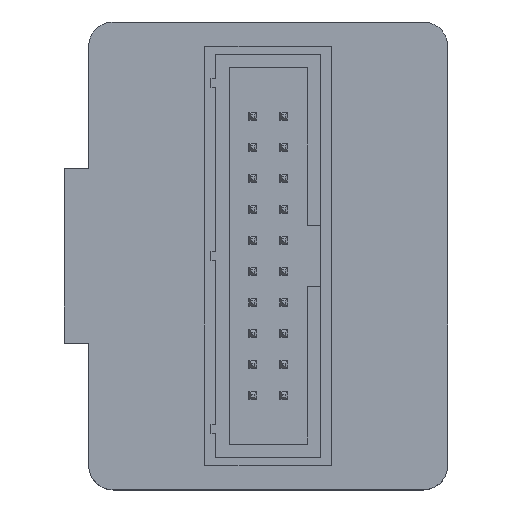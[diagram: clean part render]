
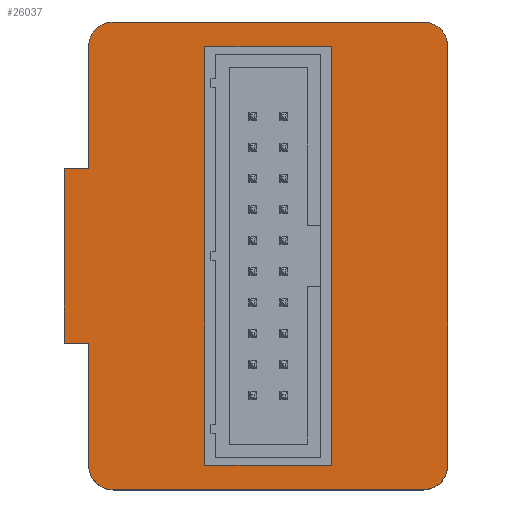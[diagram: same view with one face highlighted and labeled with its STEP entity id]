
A CAD part, top view. The second image highlights one B-rep face of the part: STEP entity #26037.
In plain terms, the highlighted planar face has unit normal (0, 0, 1).
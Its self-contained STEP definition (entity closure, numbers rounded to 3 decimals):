
#364 = VERTEX_POINT ( 'NONE', #14021 ) ;
#584 = ORIENTED_EDGE ( 'NONE', *, *, #41624, .T. ) ;
#588 = DIRECTION ( 'NONE',  ( 0., 0., 1. ) ) ;
#674 = ORIENTED_EDGE ( 'NONE', *, *, #7764, .T. ) ;
#863 = VECTOR ( 'NONE', #34122, 1000. ) ;
#1594 = DIRECTION ( 'NONE',  ( 0., 0., 1. ) ) ;
#1659 = LINE ( 'NONE', #35892, #5352 ) ;
#3092 = VERTEX_POINT ( 'NONE', #43201 ) ;
#3117 = ORIENTED_EDGE ( 'NONE', *, *, #25966, .F. ) ;
#4250 = CIRCLE ( 'NONE', #28932, 2. ) ;
#4842 = CARTESIAN_POINT ( 'NONE',  ( -1.176, -0.416, 28.134 ) ) ;
#5352 = VECTOR ( 'NONE', #15113, 1000. ) ;
#5368 = ORIENTED_EDGE ( 'NONE', *, *, #40307, .T. ) ;
#6502 = CARTESIAN_POINT ( 'NONE',  ( 0.341, 15.719, 28.134 ) ) ;
#6609 = CARTESIAN_POINT ( 'NONE',  ( 4.341, 5.719, 28.134 ) ) ;
#7243 = EDGE_LOOP ( 'NONE', ( #37437, #18319, #40186, #5368, #36495, #9422, #36245, #40594, #43068, #674, #7637, #584 ) ) ;
#7637 = ORIENTED_EDGE ( 'NONE', *, *, #18889, .T. ) ;
#7648 = VERTEX_POINT ( 'NONE', #28950 ) ;
#7764 = EDGE_CURVE ( 'NONE', #14088, #8732, #24080, .T. ) ;
#8094 = EDGE_CURVE ( 'NONE', #7648, #21552, #24662, .T. ) ;
#8126 = VECTOR ( 'NONE', #16445, 1000. ) ;
#8145 = PLANE ( 'NONE',  #36877 ) ;
#8411 = VERTEX_POINT ( 'NONE', #12141 ) ;
#8732 = VERTEX_POINT ( 'NONE', #21608 ) ;
#8904 = DIRECTION ( 'NONE',  ( 1., 0., 0. ) ) ;
#9176 = DIRECTION ( 'NONE',  ( 0., -1., 0. ) ) ;
#9348 = CARTESIAN_POINT ( 'NONE',  ( 29.729, 39.999, 28.134 ) ) ;
#9387 = DIRECTION ( 'NONE',  ( 1., 0., 0. ) ) ;
#9411 = CARTESIAN_POINT ( 'NONE',  ( 11.841, 39.999, 28.134 ) ) ;
#9422 = ORIENTED_EDGE ( 'NONE', *, *, #35385, .T. ) ;
#9570 = CARTESIAN_POINT ( 'NONE',  ( 31.729, 39.999, 28.134 ) ) ;
#10109 = CARTESIAN_POINT ( 'NONE',  ( 2.341, 15.719, 28.134 ) ) ;
#10237 = VERTEX_POINT ( 'NONE', #38463 ) ;
#10323 = DIRECTION ( 'NONE',  ( 1., 0., 0. ) ) ;
#10755 = VERTEX_POINT ( 'NONE', #9411 ) ;
#10804 = CARTESIAN_POINT ( 'NONE',  ( 11.841, 5.719, 28.134 ) ) ;
#10903 = CARTESIAN_POINT ( 'NONE',  ( 29.729, 5.719, 28.134 ) ) ;
#11004 = VECTOR ( 'NONE', #9176, 1000. ) ;
#11359 = LINE ( 'NONE', #27969, #28202 ) ;
#11855 = EDGE_CURVE ( 'NONE', #10237, #29970, #26409, .T. ) ;
#12141 = CARTESIAN_POINT ( 'NONE',  ( 2.341, 39.999, 28.134 ) ) ;
#12226 = VECTOR ( 'NONE', #30952, 1000. ) ;
#12564 = DIRECTION ( 'NONE',  ( 0., -1., 0. ) ) ;
#12589 = VECTOR ( 'NONE', #32674, 1000. ) ;
#12734 = LINE ( 'NONE', #39457, #11004 ) ;
#12736 = CARTESIAN_POINT ( 'NONE',  ( 0.341, 29.999, 28.134 ) ) ;
#12867 = EDGE_LOOP ( 'NONE', ( #3117, #31876, #14691, #40045 ) ) ;
#13280 = DIRECTION ( 'NONE',  ( 1., 0., 0. ) ) ;
#13307 = EDGE_CURVE ( 'NONE', #29970, #10755, #1659, .T. ) ;
#14021 = CARTESIAN_POINT ( 'NONE',  ( 29.729, 41.999, 28.134 ) ) ;
#14088 = VERTEX_POINT ( 'NONE', #6502 ) ;
#14528 = CARTESIAN_POINT ( 'NONE',  ( 2.341, 41.999, 28.134 ) ) ;
#14691 = ORIENTED_EDGE ( 'NONE', *, *, #13307, .F. ) ;
#15113 = DIRECTION ( 'NONE',  ( -1., 0., 0. ) ) ;
#15161 = EDGE_CURVE ( 'NONE', #364, #35507, #17945, .T. ) ;
#15275 = VECTOR ( 'NONE', #41484, 1000. ) ;
#16445 = DIRECTION ( 'NONE',  ( 0., 1., 0. ) ) ;
#17552 = DIRECTION ( 'NONE',  ( 0., -1., 0. ) ) ;
#17756 = DIRECTION ( 'NONE',  ( 1., 0., 0. ) ) ;
#17945 = LINE ( 'NONE', #20621, #37751 ) ;
#18260 = CIRCLE ( 'NONE', #43747, 2. ) ;
#18319 = ORIENTED_EDGE ( 'NONE', *, *, #42496, .T. ) ;
#18889 = EDGE_CURVE ( 'NONE', #8732, #33898, #26266, .T. ) ;
#19831 = EDGE_CURVE ( 'NONE', #25220, #14088, #11359, .T. ) ;
#20621 = CARTESIAN_POINT ( 'NONE',  ( 2.341, 41.999, 28.134 ) ) ;
#21002 = CARTESIAN_POINT ( 'NONE',  ( 2.341, 5.719, 28.134 ) ) ;
#21075 = VERTEX_POINT ( 'NONE', #10804 ) ;
#21119 = DIRECTION ( 'NONE',  ( 0., 0., 1. ) ) ;
#21552 = VERTEX_POINT ( 'NONE', #9570 ) ;
#21608 = CARTESIAN_POINT ( 'NONE',  ( 2.341, 15.719, 28.134 ) ) ;
#21856 = DIRECTION ( 'NONE',  ( 0., 0., 1. ) ) ;
#22809 = EDGE_CURVE ( 'NONE', #3092, #25220, #32452, .T. ) ;
#23061 = VECTOR ( 'NONE', #34649, 1000. ) ;
#23439 = CIRCLE ( 'NONE', #33316, 2. ) ;
#23771 = CARTESIAN_POINT ( 'NONE',  ( 22.229, 39.999, 28.134 ) ) ;
#23857 = CARTESIAN_POINT ( 'NONE',  ( 29.729, 3.719, 28.134 ) ) ;
#23951 = CARTESIAN_POINT ( 'NONE',  ( 2.341, 3.719, 28.134 ) ) ;
#24080 = LINE ( 'NONE', #10109, #35269 ) ;
#24117 = LINE ( 'NONE', #40694, #12226 ) ;
#24662 = LINE ( 'NONE', #31075, #15275 ) ;
#25220 = VERTEX_POINT ( 'NONE', #12736 ) ;
#25390 = FACE_OUTER_BOUND ( 'NONE', #7243, .T. ) ;
#25718 = DIRECTION ( 'NONE',  ( 0., 0., 1. ) ) ;
#25952 = CARTESIAN_POINT ( 'NONE',  ( 4.341, 3.719, 28.134 ) ) ;
#25966 = EDGE_CURVE ( 'NONE', #21075, #10237, #24117, .T. ) ;
#26037 = ADVANCED_FACE ( 'NONE', ( #25390, #35330 ), #8145, .T. ) ;
#26266 = LINE ( 'NONE', #43323, #37974 ) ;
#26409 = LINE ( 'NONE', #23771, #8126 ) ;
#27969 = CARTESIAN_POINT ( 'NONE',  ( 0.341, 29.999, 28.134 ) ) ;
#28167 = DIRECTION ( 'NONE',  ( -1., 0., 0. ) ) ;
#28202 = VECTOR ( 'NONE', #17552, 1000. ) ;
#28335 = EDGE_CURVE ( 'NONE', #10755, #21075, #12734, .T. ) ;
#28929 = CARTESIAN_POINT ( 'NONE',  ( 2.341, 29.999, 28.134 ) ) ;
#28932 = AXIS2_PLACEMENT_3D ( 'NONE', #6609, #21119, #13280 ) ;
#28950 = CARTESIAN_POINT ( 'NONE',  ( 31.729, 5.719, 28.134 ) ) ;
#29970 = VERTEX_POINT ( 'NONE', #38766 ) ;
#30840 = AXIS2_PLACEMENT_3D ( 'NONE', #10903, #588, #17756 ) ;
#30952 = DIRECTION ( 'NONE',  ( 1., 0., 0. ) ) ;
#31075 = CARTESIAN_POINT ( 'NONE',  ( 31.729, 41.999, 28.134 ) ) ;
#31876 = ORIENTED_EDGE ( 'NONE', *, *, #28335, .F. ) ;
#31885 = CARTESIAN_POINT ( 'NONE',  ( 4.341, 39.999, 28.134 ) ) ;
#32452 = LINE ( 'NONE', #28929, #12589 ) ;
#32674 = DIRECTION ( 'NONE',  ( -1., 0., 0. ) ) ;
#33316 = AXIS2_PLACEMENT_3D ( 'NONE', #31885, #1594, #42277 ) ;
#33898 = VERTEX_POINT ( 'NONE', #21002 ) ;
#34122 = DIRECTION ( 'NONE',  ( 1., 0., 0. ) ) ;
#34649 = DIRECTION ( 'NONE',  ( 0., -1., 0. ) ) ;
#35262 = EDGE_CURVE ( 'NONE', #41102, #36522, #41637, .T. ) ;
#35269 = VECTOR ( 'NONE', #10323, 1000. ) ;
#35330 = FACE_BOUND ( 'NONE', #12867, .T. ) ;
#35385 = EDGE_CURVE ( 'NONE', #35507, #8411, #23439, .T. ) ;
#35507 = VERTEX_POINT ( 'NONE', #41153 ) ;
#35718 = CIRCLE ( 'NONE', #30840, 2. ) ;
#35892 = CARTESIAN_POINT ( 'NONE',  ( 11.841, 39.999, 28.134 ) ) ;
#36245 = ORIENTED_EDGE ( 'NONE', *, *, #43461, .T. ) ;
#36495 = ORIENTED_EDGE ( 'NONE', *, *, #15161, .T. ) ;
#36522 = VERTEX_POINT ( 'NONE', #23857 ) ;
#36877 = AXIS2_PLACEMENT_3D ( 'NONE', #4842, #21856, #9387 ) ;
#37437 = ORIENTED_EDGE ( 'NONE', *, *, #35262, .T. ) ;
#37751 = VECTOR ( 'NONE', #28167, 1000. ) ;
#37974 = VECTOR ( 'NONE', #12564, 1000. ) ;
#38463 = CARTESIAN_POINT ( 'NONE',  ( 22.229, 5.719, 28.134 ) ) ;
#38766 = CARTESIAN_POINT ( 'NONE',  ( 22.229, 39.999, 28.134 ) ) ;
#39412 = LINE ( 'NONE', #14528, #23061 ) ;
#39457 = CARTESIAN_POINT ( 'NONE',  ( 11.841, 39.999, 28.134 ) ) ;
#40045 = ORIENTED_EDGE ( 'NONE', *, *, #11855, .F. ) ;
#40186 = ORIENTED_EDGE ( 'NONE', *, *, #8094, .T. ) ;
#40307 = EDGE_CURVE ( 'NONE', #21552, #364, #18260, .T. ) ;
#40594 = ORIENTED_EDGE ( 'NONE', *, *, #22809, .T. ) ;
#40694 = CARTESIAN_POINT ( 'NONE',  ( 11.841, 5.719, 28.134 ) ) ;
#41102 = VERTEX_POINT ( 'NONE', #25952 ) ;
#41153 = CARTESIAN_POINT ( 'NONE',  ( 4.341, 41.999, 28.134 ) ) ;
#41484 = DIRECTION ( 'NONE',  ( 0., 1., 0. ) ) ;
#41624 = EDGE_CURVE ( 'NONE', #33898, #41102, #4250, .T. ) ;
#41637 = LINE ( 'NONE', #23951, #863 ) ;
#42277 = DIRECTION ( 'NONE',  ( 1., 0., 0. ) ) ;
#42496 = EDGE_CURVE ( 'NONE', #36522, #7648, #35718, .T. ) ;
#43068 = ORIENTED_EDGE ( 'NONE', *, *, #19831, .T. ) ;
#43201 = CARTESIAN_POINT ( 'NONE',  ( 2.341, 29.999, 28.134 ) ) ;
#43323 = CARTESIAN_POINT ( 'NONE',  ( 2.341, 41.999, 28.134 ) ) ;
#43461 = EDGE_CURVE ( 'NONE', #8411, #3092, #39412, .T. ) ;
#43747 = AXIS2_PLACEMENT_3D ( 'NONE', #9348, #25718, #8904 ) ;
